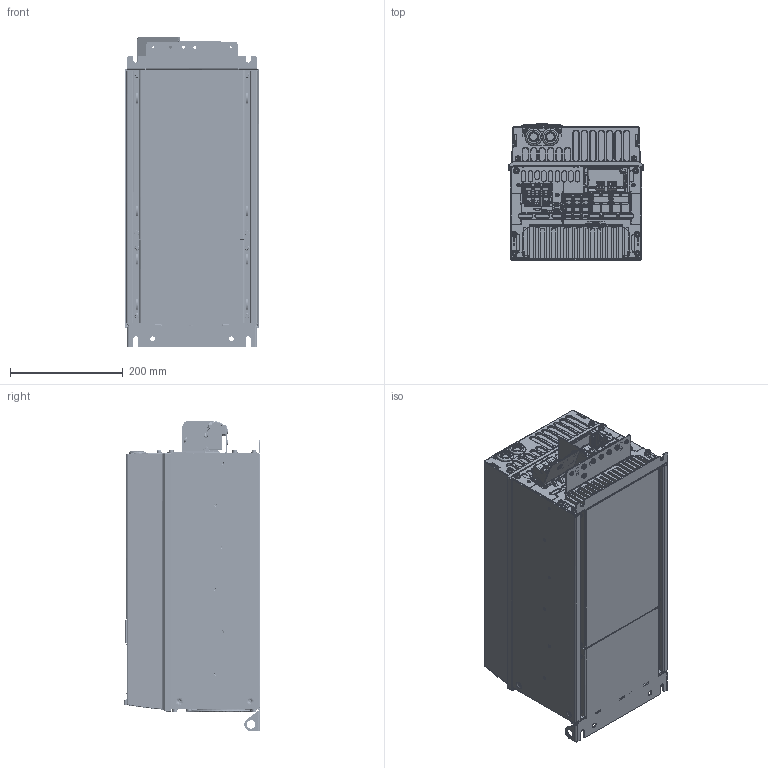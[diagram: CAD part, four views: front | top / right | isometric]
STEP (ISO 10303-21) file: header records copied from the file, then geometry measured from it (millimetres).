
FILE_DESCRIPTION (( 'STEP AP203' ), '1' );
FILE_NAME ('庉俵.6-ip20_0.STEP', '2016-01-18T14:01:00', ( '' ), ( '' ), 'SwSTEP 2.0', 'SolidWorks 2015', '' );
FILE_SCHEMA (( 'CONFIG_CONTROL_DESIGN' ));
Products named in the file (1): 庉俵.6-ip20_0
Bounding box: 239 x 242.09 x 551.61 mm (x, y, z)
Surface area: 1624343.6 mm2 (no closed solid volume)
Topology: 0 solids, 35 shells, 5717 faces, 16685 edges, 11187 vertices
Faces by surface type: plane 3250, cylinder 1528, bspline 800, cone 133, torus 6
Entity records: 266575 total; most frequent: CARTESIAN_POINT 131251, ORIENTED_EDGE 33167, DIRECTION 20375, EDGE_CURVE 16599, VERTEX_POINT 11178, LINE 8695, VECTOR 8695, B_SPLINE_CURVE_WITH_KNOTS 6559
